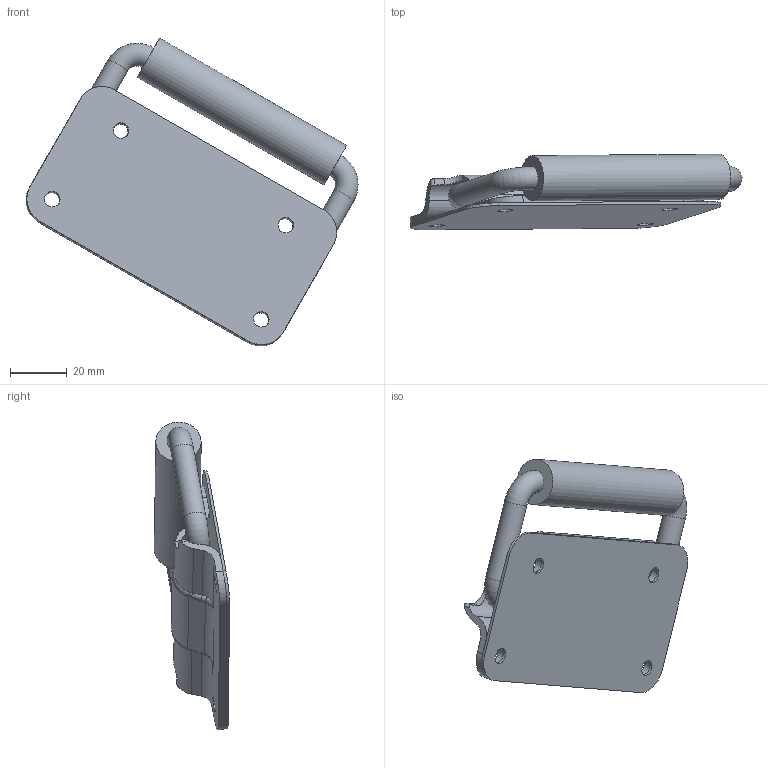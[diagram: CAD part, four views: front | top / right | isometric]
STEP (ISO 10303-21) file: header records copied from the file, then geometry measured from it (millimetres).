
FILE_DESCRIPTION(/* description */ (''),/* implementation_level */ '2;1');
FILE_NAME(/* name */ '\\NAS\db20\A-FT4-90\DR_A-FT4-90.stp',/* time_stamp */ '2018-08-09T17:52:13+09:00',/* author */ ('user'),/* organization */ (''),/* preprocessor_version */ 'ST-DEVELOPER v15.6',/* originating_system */ 'Autodesk Inventor 2015',/* authorisation */ '');
FILE_SCHEMA (('AUTOMOTIVE_DESIGN { 1 0 10303 214 3 1 1 }'));
Length unit declared in the file: millimetre
Products named in the file (4): DR_A-FT4-90-P3; DR_A-FT4-90-P2; DR_A-FT4-90-P1; DR_A-FT4-90
Bounding box: 117.07 x 26.62 x 108.55 mm (x, y, z)
Volume: 45391.1 mm3; surface area: 32682.9 mm2
Topology: 3 solids, 3 shells, 88 faces, 238 edges, 148 vertices
Faces by surface type: cylinder 36, plane 26, bspline 20, torus 6
Full cylindrical faces by diameter (mm): 5.5 x8, 8 x3, 16 x1
Entity records: 3247 total; most frequent: CARTESIAN_POINT 1071, ORIENTED_EDGE 424, DIRECTION 424, EDGE_CURVE 212, AXIS2_PLACEMENT_3D 169, VERTEX_POINT 142, EDGE_LOOP 118, CIRCLE 94
